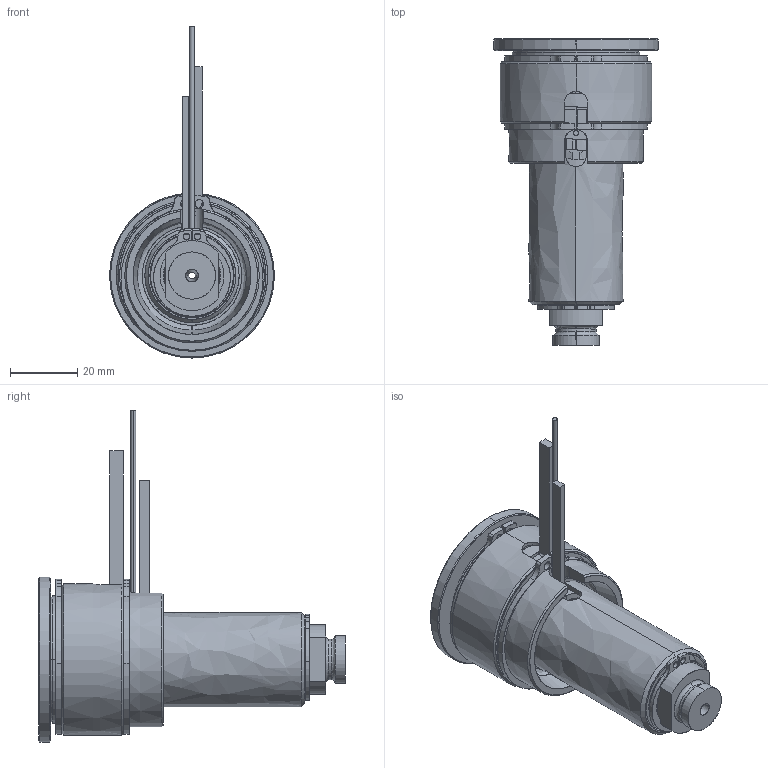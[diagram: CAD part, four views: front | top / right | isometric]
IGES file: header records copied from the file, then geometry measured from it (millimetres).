
Start section: SolidWorks IGES file using analytic representation for surfaces
Global section: file name: C:\Documents and Settings\ws-20\Desktop\TEM\UGBE4501-S-A-5 [Ød-2.0 P-0 ØC-10].IGS; native system: SolidWorks 2012; preprocessor: SolidWorks 2012; author: ws-20; date: 120412.154254; units: millimetre
Bounding box: 49 x 91 x 98.65 mm (x, y, z)
Surface area: 39758.3 mm2 (no closed solid volume)
Topology: 0 solids, 0 shells, 168 faces, 3221 edges, 3221 vertices
Faces by surface type: revolution 106, bspline 62
